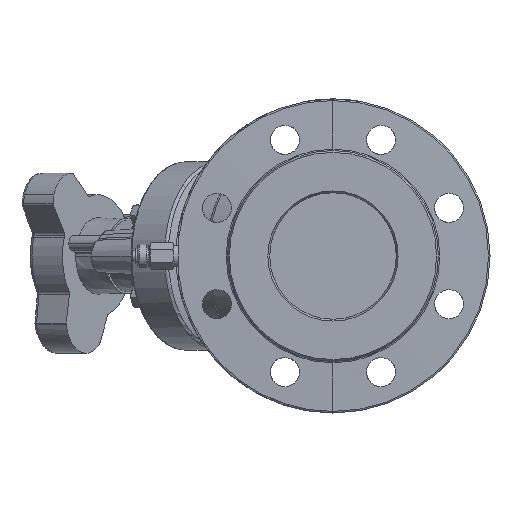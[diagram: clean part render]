
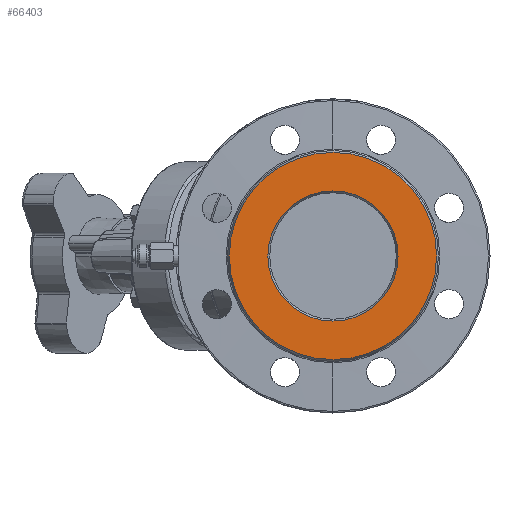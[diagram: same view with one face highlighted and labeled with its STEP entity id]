
A CAD part, left-side view. The second image highlights one B-rep face of the part: STEP entity #66403.
In plain terms, the highlighted planar face has unit normal (-1, 0, 0).
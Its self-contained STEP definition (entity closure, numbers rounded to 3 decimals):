
#435 = PLANE ( 'NONE',  #47854 ) ;
#448 = CARTESIAN_POINT ( 'NONE',  ( -75., 0., 0. ) ) ;
#1405 = AXIS2_PLACEMENT_3D ( 'NONE', #62843, #8227, #14307 ) ;
#3673 = VERTEX_POINT ( 'NONE', #26760 ) ;
#4729 = CIRCLE ( 'NONE', #72359, 41.443 ) ;
#6253 = DIRECTION ( 'NONE',  ( -1., 0., 0. ) ) ;
#8227 = DIRECTION ( 'NONE',  ( -1., 0., 0. ) ) ;
#9858 = EDGE_LOOP ( 'NONE', ( #21407, #50336 ) ) ;
#10533 = CARTESIAN_POINT ( 'NONE',  ( -75., 0., 0. ) ) ;
#13550 = AXIS2_PLACEMENT_3D ( 'NONE', #17592, #77474, #47705 ) ;
#14307 = DIRECTION ( 'NONE',  ( 0., 0., 1. ) ) ;
#17585 = CARTESIAN_POINT ( 'NONE',  ( -75., 0., 0. ) ) ;
#17592 = CARTESIAN_POINT ( 'NONE',  ( -75., 0., 0. ) ) ;
#18518 = FACE_OUTER_BOUND ( 'NONE', #42346, .T. ) ;
#21407 = ORIENTED_EDGE ( 'NONE', *, *, #32242, .T. ) ;
#23728 = CIRCLE ( 'NONE', #1405, 66. ) ;
#23961 = DIRECTION ( 'NONE',  ( 1., 0., 0. ) ) ;
#24153 = EDGE_CURVE ( 'NONE', #3673, #55092, #31730, .T. ) ;
#26760 = CARTESIAN_POINT ( 'NONE',  ( -75., 0., 66. ) ) ;
#29458 = EDGE_CURVE ( 'NONE', #55092, #3673, #23728, .T. ) ;
#29561 = EDGE_CURVE ( 'NONE', #48394, #34427, #32020, .T. ) ;
#31730 = CIRCLE ( 'NONE', #66500, 66. ) ;
#32020 = CIRCLE ( 'NONE', #13550, 41.443 ) ;
#32242 = EDGE_CURVE ( 'NONE', #34427, #48394, #4729, .T. ) ;
#33758 = CARTESIAN_POINT ( 'NONE',  ( -75., 0., -41.443 ) ) ;
#34427 = VERTEX_POINT ( 'NONE', #39836 ) ;
#35376 = CARTESIAN_POINT ( 'NONE',  ( -75., 0., -66. ) ) ;
#39836 = CARTESIAN_POINT ( 'NONE',  ( -75., 0., 41.443 ) ) ;
#42346 = EDGE_LOOP ( 'NONE', ( #66354, #45376 ) ) ;
#42449 = DIRECTION ( 'NONE',  ( 0., 0., 1. ) ) ;
#45376 = ORIENTED_EDGE ( 'NONE', *, *, #24153, .T. ) ;
#46467 = DIRECTION ( 'NONE',  ( 0., 0., 1. ) ) ;
#47705 = DIRECTION ( 'NONE',  ( 0., 0., 1. ) ) ;
#47854 = AXIS2_PLACEMENT_3D ( 'NONE', #17585, #6253, #60339 ) ;
#48394 = VERTEX_POINT ( 'NONE', #33758 ) ;
#48766 = FACE_BOUND ( 'NONE', #9858, .T. ) ;
#50336 = ORIENTED_EDGE ( 'NONE', *, *, #29561, .T. ) ;
#55092 = VERTEX_POINT ( 'NONE', #35376 ) ;
#60339 = DIRECTION ( 'NONE',  ( 0., 0., 1. ) ) ;
#62843 = CARTESIAN_POINT ( 'NONE',  ( -75., 0., 0. ) ) ;
#66354 = ORIENTED_EDGE ( 'NONE', *, *, #29458, .T. ) ;
#66403 = ADVANCED_FACE ( 'NONE', ( #18518, #48766 ), #435, .T. ) ;
#66500 = AXIS2_PLACEMENT_3D ( 'NONE', #10533, #76480, #46467 ) ;
#72359 = AXIS2_PLACEMENT_3D ( 'NONE', #448, #23961, #42449 ) ;
#76480 = DIRECTION ( 'NONE',  ( -1., 0., 0. ) ) ;
#77474 = DIRECTION ( 'NONE',  ( 1., 0., 0. ) ) ;
